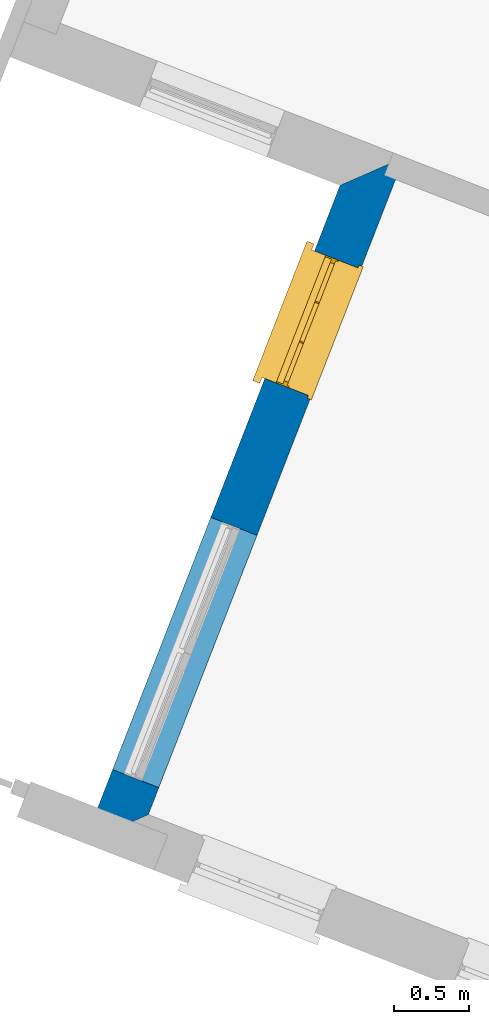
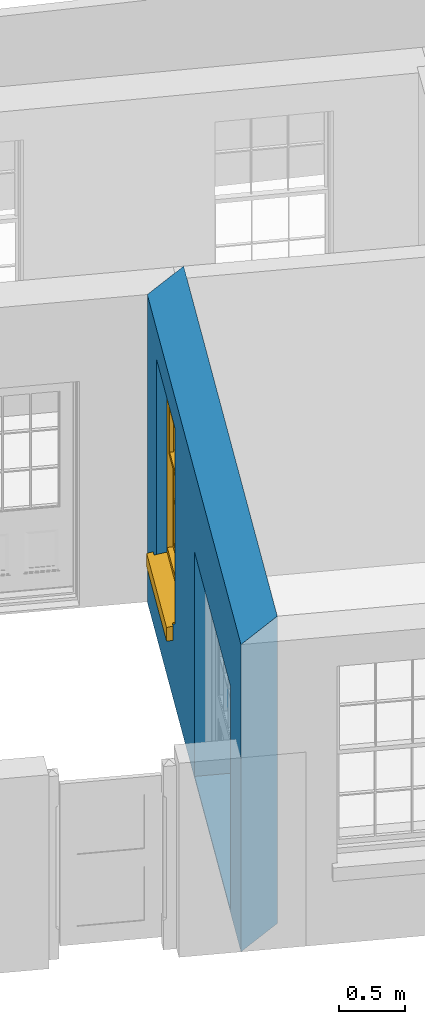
# One storey, part 3 of 10: 1 wall, 1 window, 2 openings.
"""IFC4 building model written with IfcOpenShell, lengths in metres."""

from ifc_helpers import new_model, si_unit, frame, origin, origin_with_axes, place, context, subcontext, project, spatial, polyline, outline, extrude, faceted_brep, source, transform, mapped, material, layer, layer_set, layer_usage, type_object, type_shapes, element, fill, save


model = new_model("IFC4")

# Units and contexts
model_context = context("Model", 3, world=origin_with_axes())
body_context = subcontext(model_context, "Body", "Model", "MODEL_VIEW")
ifc_project = project(units=[si_unit("PLANEANGLEUNIT", "RADIAN"), si_unit("MASSUNIT", "GRAM", prefix="KILO"), si_unit("FORCEUNIT", "NEWTON", prefix="KILO"), si_unit("LENGTHUNIT", "METRE"), si_unit("AREAUNIT", "SQUARE_METRE"), si_unit("VOLUMEUNIT", "CUBIC_METRE")], contexts=[model_context, model_context])

# Sites, building, storey
site_1_placement = place(None, origin_with_axes())
site_1 = spatial("IfcSite", under=ifc_project, at=site_1_placement, Name="Tamar")
site_2_placement = place(site_1_placement, origin_with_axes())
site_2 = spatial("IfcSite", under=site_1, at=site_2_placement, Name="Site plot-8", CompositionType="ELEMENT")
building_placement = place(None, origin_with_axes())
building = spatial("IfcBuilding", under=site_2, at=building_placement, Name="Building plot-8", CompositionType="ELEMENT")
storey_placement = place(None, frame((0.0, 0.0, 26.0), z_axis=(0.0, 0.0, 1.0), x_axis=(1.0, 0.0, 0.0)))
storey = spatial("IfcBuildingStorey", under=building, at=storey_placement, Name="plot-8 0", CompositionType="ELEMENT", Elevation=26.0)

# Wall, openings, window
ifc_material = material(Name="Masonry")
ifc_layer = layer(ifc_material, 0.33, ventilated=False)
ifc_layer_set = layer_set([ifc_layer], Name="exterior_0.08_0.25")
ifc_layer_usage = layer_usage(ifc_layer_set, "AXIS2", "POSITIVE", -0.25)
wall_type = type_object("IfcWallType", Name="exterior_0.08_0.25", PredefinedType="SOLIDWALL", material=ifc_layer_set)
wall_placement = place(storey_placement, frame((223.979982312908, 309.32457709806, 0.0), z_axis=(0.0, 0.0, 1.0), x_axis=(-0.362808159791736, -0.931863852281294, 0.0)))
wall = element("IfcWall", 1, at=wall_placement, inside=storey, type_object=wall_type, material=ifc_layer_usage, Name="exterior", context=body_context, shape_type="SweptSolid", body=[
    extrude(outline(polyline([(-0.0800000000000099, 0.0799999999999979), (0.250000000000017, -0.249999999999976), (4.94140201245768, -0.249999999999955), (4.61140201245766, 0.0799999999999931), (-0.0800000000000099, 0.0799999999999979)])), origin_with_axes(), (0.0, 0.0, 1.0), 2.85),
])
opening_1_placement = place(wall_placement, frame((0.717850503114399, 0.0, 0.75)))
opening_1 = element("IfcOpeningElement", 2, at=opening_1_placement, cuts=wall, Name="My Opening", ObjectType="Opening", context=body_context, shape_type="SweptSolid", body=[
    extrude(outline(polyline([(0.0, -0.269999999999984), (0.910000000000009, -0.269999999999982), (0.910000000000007, 1.1), (-2.55351295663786e-15, 1.1), (0.0, -0.269999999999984)])), origin_with_axes(), (0.0, 0.0, 1.0), 1.82),
])
opening_2_placement = place(wall_placement, frame((2.6185515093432, 0.0, 0.0199999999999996)))
element("IfcOpeningElement", 3, at=opening_2_placement, cuts=wall, Name="My Opening", ObjectType="Opening", context=body_context, shape_type="SweptSolid", body=[
    extrude(outline(polyline([(0.0, -0.269999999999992), (1.80000000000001, -0.269999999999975), (1.80000000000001, 1.10000000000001), (-2.22044604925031e-15, 1.09999999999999), (0.0, -0.269999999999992)])), origin_with_axes(), (0.0, 0.0, 1.0), 2.08),
])
window_type = type_object("IfcWindowType", Name="sash_big", PartitioningType="DOUBLE_PANEL_HORIZONTAL", PredefinedType="NOTDEFINED")
shared_shape = source(origin(), body_context, "Body", "Brep", [
    faceted_brep([(0.033125, 0.145, 0.975209), (0.01, 0.145, 0.975209), (0.033125, 0.145, 1.376042), (0.876875, 0.145, 0.975209), (0.876875, 0.145, 1.376042), (0.9, 0.145, 0.975209), (0.876875, 0.145, 1.386042), (0.876875, 0.145, 1.786875), (0.9, 0.145, 1.81), (0.033125, 0.145, 1.786875), (0.033125, 0.145, 1.386042), (0.01, 0.145, 1.81), (0.876875, 0.115, 1.376042), (0.876875, 0.115, 0.975209), (0.9, 0.115, 0.937083), (0.033125, 0.115, 1.786875), (0.01, 0.115, 1.81), (0.033125, 0.115, 1.386042), (0.01, 0.115, 0.937083), (0.033125, 0.115, 0.975209), (0.033125, 0.115, 1.376042), (0.876875, 0.115, 1.786875), (0.876875, 0.115, 1.386042), (0.9, 0.115, 1.81), (0.033125, 0.145, 0.937083), (0.01, 0.145, 0.937083), (0.033125, 0.145, 0.53625), (0.876875, 0.145, 0.937083), (0.876875, 0.145, 0.53625), (0.9, 0.145, 0.937083), (0.876875, 0.145, 0.52625), (0.876875, 0.145, 0.125417), (0.9, 0.145, 0.077167), (0.033125, 0.145, 0.125417), (0.033125, 0.145, 0.52625), (0.01, 0.145, 0.077167), (-0.0425, 0.0, 0.01), (-0.0425, -0.05, 0.001667), (0.0, 0.0, 0.01), (0.9525, 0.0, 0.01), (0.91, 0.0, 0.01), (0.9525, -0.05, 0.001667), (-0.02, 0.33, 0.077167), (0.0, 0.33, 0.077167), (-0.02, 0.36, 0.077167), (0.0, 0.19, 0.077167), (0.01, 0.19, 0.077167), (0.91, 0.19, 0.077167), (0.91, 0.33, 0.077167), (0.9, 0.19, 0.077167), (0.93, 0.33, 0.077167), (0.93, 0.36, 0.077167), (0.01, 0.175, 0.975209), (0.9, 0.175, 0.975209), (0.876875, 0.175, 0.125417), (0.876875, 0.175, 0.52625), (0.9, 0.175, 0.077167), (0.876875, 0.175, 0.53625), (0.876875, 0.175, 0.937083), (0.033125, 0.175, 0.125417), (0.01, 0.175, 0.077167), (0.033125, 0.175, 0.52625), (0.033125, 0.175, 0.937083), (0.033125, 0.175, 0.53625), (-0.02, 0.33, 0.052167), (-0.02, 0.36, 0.052167), (0.93, 0.36, 0.052167), (0.93, 0.33, 0.052167), (0.91, 0.33, 0.052167), (0.0, 0.33, 0.052167), (0.91, 0.1, 0.026667), (0.0, 0.1, 0.026667), (-0.0425, -0.05, -0.123333), (0.9525, -0.05, -0.123333), (-0.0425, 0.0, -0.123333), (0.9525, 0.0, -0.123333), (0.01, 0.19, 1.81), (0.9, 0.19, 1.81), (0.0, 0.19, 1.82), (0.91, 0.19, 1.82), (0.01, 0.1, 0.077167), (0.9, 0.1, 0.077167), (0.592292, 0.145, 0.125417), (0.592292, 0.175, 0.125417), (0.317708, 0.175, 0.125417), (0.317708, 0.145, 0.125417), (0.592292, 0.145, 0.53625), (0.317708, 0.145, 0.53625), (0.317708, 0.145, 0.52625), (0.592292, 0.145, 0.52625), (0.592292, 0.175, 0.53625), (0.317708, 0.175, 0.53625), (0.592292, 0.115, 1.386042), (0.592292, 0.145, 1.386042), (0.317708, 0.145, 1.386042), (0.317708, 0.115, 1.386042), (0.317708, 0.115, 1.376042), (0.592292, 0.115, 1.376042), (0.317708, 0.145, 1.376042), (0.592292, 0.145, 1.376042), (0.602292, 0.115, 1.376042), (0.592292, 0.115, 0.975209), (0.602292, 0.115, 0.975209), (0.602292, 0.145, 0.975209), (0.592292, 0.145, 0.975209), (0.602292, 0.145, 1.376042), (0.602292, 0.175, 0.53625), (0.602292, 0.145, 0.53625), (0.317708, 0.175, 0.52625), (0.307708, 0.175, 0.125417), (0.307708, 0.175, 0.52625), (0.602292, 0.175, 0.52625), (0.602292, 0.175, 0.125417), (0.592292, 0.175, 0.52625), (0.307708, 0.175, 0.53625), (0.317708, 0.175, 0.937083), (0.307708, 0.175, 0.937083), (0.602292, 0.175, 0.937083), (0.592292, 0.175, 0.937083), (0.307708, 0.145, 0.52625), (0.307708, 0.145, 0.125417), (0.307708, 0.145, 0.53625), (0.307708, 0.145, 0.937083), (0.592292, 0.145, 0.937083), (0.317708, 0.145, 0.937083), (0.602292, 0.145, 0.937083), (0.602292, 0.145, 0.52625), (0.602292, 0.145, 0.125417), (0.307708, 0.115, 1.386042), (0.307708, 0.115, 1.376042), (0.307708, 0.115, 0.975209), (0.317708, 0.115, 0.975209), (0.317708, 0.115, 1.786875), (0.307708, 0.115, 1.786875), (0.602292, 0.115, 1.786875), (0.592292, 0.115, 1.786875), (0.602292, 0.115, 1.386042), (0.602292, 0.145, 1.386042), (0.307708, 0.145, 1.386042), (0.307708, 0.145, 1.786875), (0.317708, 0.145, 1.786875), (0.592292, 0.145, 1.786875), (0.602292, 0.145, 1.786875), (0.307708, 0.145, 1.376042), (0.317708, 0.145, 0.975209), (0.307708, 0.145, 0.975209), (0.91, 0.1, 1.82), (0.9, 0.1, 1.81), (0.01, 0.1, 1.81), (0.0, 0.1, 1.82), (0.91, 0.0, 0.0), (0.0, 0.0, 0.0), (0.91, 0.33, 0.0), (0.0, 0.33, 0.0)], [[[0, 1, 2]], [[3, 4, 5]], [[6, 7, 8]], [[9, 10, 11]], [[12, 13, 14]], [[15, 16, 17]], [[18, 19, 20]], [[21, 22, 23]], [[24, 25, 26]], [[27, 28, 29]], [[30, 31, 32]], [[33, 34, 35]], [[14, 27, 29]], [[25, 24, 18]], [[36, 37, 38]], [[39, 40, 41]], [[42, 43, 44]], [[45, 46, 43]], [[47, 48, 49]], [[50, 51, 48]], [[1, 0, 52]], [[5, 53, 3]], [[54, 55, 56]], [[57, 58, 53]], [[59, 60, 61]], [[62, 63, 52]], [[48, 43, 46, 49]], [[51, 44, 43, 48]], [[64, 42, 44, 65]], [[65, 44, 51, 66]], [[66, 51, 50, 67]], [[65, 66, 68, 69]], [[60, 56, 49, 46]], [[70, 71, 38, 40]], [[37, 41, 40, 38]], [[37, 72, 73, 41]], [[74, 75, 73, 72]], [[8, 11, 76, 77]], [[76, 78, 79, 77]], [[32, 35, 80, 81]], [[81, 80, 71, 70]], [[82, 83, 84, 85]], [[86, 87, 88, 89]], [[86, 90, 91, 87]], [[92, 93, 94, 95]], [[92, 95, 96, 97]], [[96, 98, 99, 97]], [[100, 97, 101, 102]], [[103, 104, 99, 105]], [[97, 99, 104, 101]], [[102, 103, 105, 100]], [[28, 57, 106, 107]], [[108, 84, 109, 110]], [[111, 112, 83, 113]], [[114, 110, 61, 63]], [[90, 113, 108, 91]], [[115, 91, 114, 116]], [[117, 106, 90, 118]], [[111, 106, 57, 55]], [[119, 110, 109, 120]], [[34, 61, 110, 119]], [[89, 113, 83, 82]], [[88, 108, 113, 89]], [[85, 84, 108, 88]], [[121, 114, 63, 26]], [[122, 116, 114, 121]], [[123, 118, 90, 86]], [[87, 91, 115, 124]], [[107, 106, 117, 125]], [[126, 111, 55, 30]], [[127, 112, 111, 126]], [[126, 30, 28, 107]], [[88, 119, 120, 85]], [[126, 89, 82, 127]], [[125, 123, 86, 107]], [[121, 26, 34, 119]], [[124, 122, 121, 87]], [[128, 17, 20, 129]], [[96, 129, 130, 131]], [[132, 133, 128, 95]], [[134, 135, 92, 136]], [[100, 12, 22, 136]], [[137, 6, 4, 105]], [[94, 138, 139, 140]], [[137, 93, 141, 142]], [[99, 98, 94, 93]], [[143, 2, 10, 138]], [[144, 145, 143, 98]], [[129, 143, 145, 130]], [[20, 2, 143, 129]], [[131, 144, 98, 96]], [[128, 138, 10, 17]], [[133, 139, 138, 128]], [[135, 141, 93, 92]], [[95, 94, 140, 132]], [[22, 6, 137, 136]], [[136, 137, 142, 134]], [[100, 105, 4, 12]], [[107, 86, 89, 126]], [[106, 111, 113, 90]], [[91, 108, 110, 114]], [[87, 121, 119, 88]], [[97, 100, 136, 92]], [[129, 96, 95, 128]], [[98, 143, 138, 94]], [[105, 99, 93, 137]], [[131, 101, 104, 144]], [[124, 115, 118, 123]], [[132, 140, 141, 135]], [[120, 109, 59, 33]], [[15, 9, 139, 133]], [[134, 142, 7, 21]], [[31, 54, 112, 127]], [[36, 74, 72, 37]], [[39, 41, 73, 75]], [[18, 14, 101, 131]], [[23, 16, 132, 135]], [[83, 56, 60, 84]], [[52, 53, 118, 115]], [[53, 52, 144, 104]], [[11, 8, 141, 140]], [[14, 18, 124, 123]], [[2, 1, 11, 10]], [[8, 5, 4, 6]], [[57, 53, 56, 55]], [[60, 52, 63, 61]], [[26, 25, 35, 34]], [[32, 29, 28, 30]], [[14, 23, 22, 12]], [[18, 20, 17, 16]], [[19, 0, 2, 20]], [[17, 10, 9, 15]], [[12, 4, 3, 13]], [[21, 7, 6, 22]], [[27, 58, 57, 28]], [[30, 55, 54, 31]], [[33, 59, 61, 34]], [[26, 63, 62, 24]], [[5, 8, 77, 53]], [[76, 11, 1, 52]], [[46, 45, 78, 76]], [[49, 77, 79, 47]], [[70, 146, 147, 81]], [[71, 80, 148, 149]], [[19, 130, 145, 0]], [[102, 13, 3, 103]], [[116, 122, 24, 62]], [[29, 32, 81, 14]], [[80, 35, 25, 18]], [[60, 46, 76, 52]], [[77, 49, 56, 53]], [[23, 14, 81, 147]], [[16, 148, 80, 18]], [[35, 85, 120]], [[120, 33, 35]], [[127, 82, 32]], [[32, 31, 127]], [[32, 82, 85, 35]], [[102, 101, 14]], [[14, 13, 102]], [[18, 131, 130]], [[130, 19, 18]], [[134, 21, 23]], [[23, 135, 134]], [[16, 15, 133]], [[133, 132, 16]], [[11, 140, 139]], [[139, 9, 11]], [[142, 141, 8]], [[8, 7, 142]], [[23, 147, 148, 16]], [[146, 149, 148, 147]], [[52, 115, 116]], [[116, 62, 52]], [[118, 53, 117]], [[58, 117, 53]], [[27, 125, 117, 58]], [[56, 83, 112]], [[112, 54, 56]], [[109, 84, 60]], [[60, 59, 109]], [[125, 27, 14]], [[14, 123, 125]], [[122, 124, 18]], [[18, 24, 122]], [[145, 144, 52]], [[52, 0, 145]], [[103, 3, 53]], [[53, 104, 103]], [[79, 78, 149, 146]], [[78, 45, 71, 149]], [[146, 70, 47, 79]], [[150, 75, 74, 151]], [[68, 66, 67]], [[48, 68, 67, 50]], [[69, 64, 65]], [[42, 64, 69, 43]], [[69, 68, 152, 153]], [[70, 68, 48, 47]], [[150, 152, 68, 70]], [[43, 69, 71, 45]], [[69, 153, 151, 71]], [[152, 150, 151, 153]], [[38, 151, 74, 36]], [[71, 151, 38]], [[39, 75, 150, 40]], [[40, 150, 70]]]),
])
type_shapes(window_type, [shared_shape])
window_placement = place(storey_placement, frame((223.467937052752, 308.75359636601, 0.75), z_axis=(0.0, 0.0, 1.0), x_axis=(-0.330155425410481, -0.847996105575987, 0.0)))
window = element("IfcWindow", 4, at=window_placement, inside=storey, type_object=window_type, Name="living outside window", OverallHeight=1.82, OverallWidth=0.91, context=body_context, shape_type="MappedRepresentation", body=[
    mapped(shared_shape, transform((0.0, 0.0, 0.0), scale=1.0)),
])
fill(opening_1, window)

save(model, "model.ifc")
